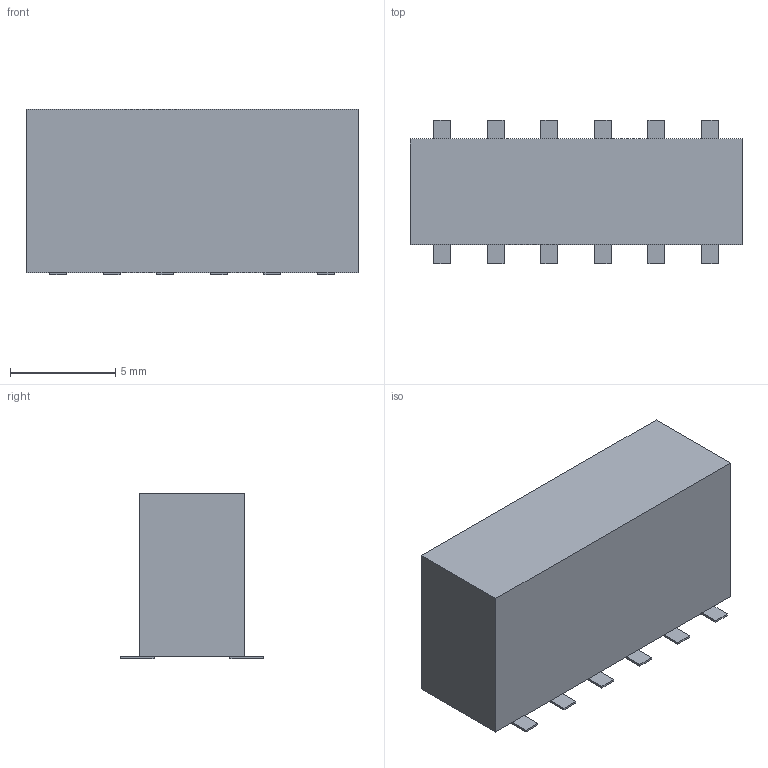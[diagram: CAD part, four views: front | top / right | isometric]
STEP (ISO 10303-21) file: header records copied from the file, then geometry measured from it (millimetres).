
FILE_DESCRIPTION(('FreeCAD Model'),'2;1');
FILE_NAME('/var/www/3D/0T/1828846.1.9.stp','2021-08-30T15:30:59',( 'Author'),(''),'Open CASCADE STEP processor 6.9','FreeCAD','Unknown' );
FILE_SCHEMA(('AUTOMOTIVE_DESIGN { 1 0 10303 214 1 1 1 1 }'));
Length unit declared in the file: millimetre
Products named in the file (3): ASSEMBLY; Body; Pins
Assembly tree (2 placements, depth 2):
  ASSEMBLY
    Body
    Pins
Bounding box: 15.74 x 6.8 x 7.85 mm (x, y, z)
Volume: 611.5 mm3; surface area: 515.3 mm2
Topology: 13 solids, 13 shells, 78 faces, 156 edges, 104 vertices
Faces by surface type: plane 78
Entity records: 4151 total; most frequent: CARTESIAN_POINT 653, DIRECTION 630, LINE 468, VECTOR 468, ORIENTED_EDGE 312, PCURVE 312, DEFINITIONAL_REPRESENTATION 312, EDGE_CURVE 156
